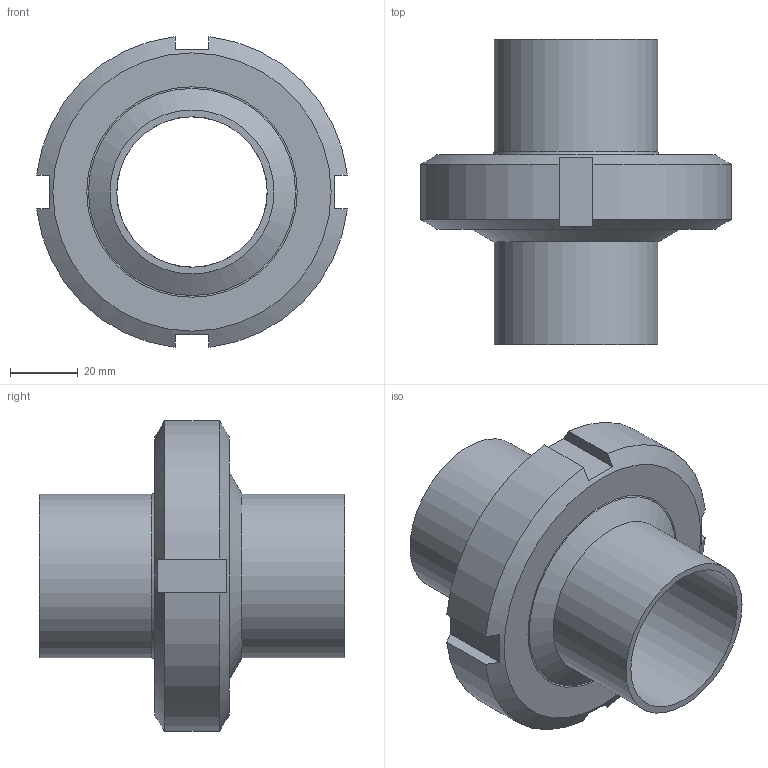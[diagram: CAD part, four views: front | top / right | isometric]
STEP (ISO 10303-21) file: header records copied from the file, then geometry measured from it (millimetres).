
FILE_DESCRIPTION(/* description */ ('Aseptik_Rohrverbindung_DIN 11864-1-A_48,3x2_L90'),/* implementation_level */ '2;1');
FILE_NAME(/* name */ 'L:\Normteile\N0024 - Rohrverbindungen\N0024_002 - DIN11864\N0024_002_001 - geschraubt\N0024_002_001\Step Marketing\DIN11864-1-A_48,3x2_L90.stp',/* time_stamp */ '2021-08-31T10:25:29+02:00',/* author */ ('Csasse'),/* organization */ ('Dockweiler AG'),/* preprocessor_version */ 'ST-DEVELOPER v18',/* originating_system */ 'Autodesk Inventor 2020',/* authorisation */ '');
FILE_SCHEMA (('AUTOMOTIVE_DESIGN { 1 0 10303 214 3 1 1 }'));
Length unit declared in the file: millimetre
Products named in the file (5): N0024_002_001_45; N0003_007_001_17; N0003_007_002_17; N0005_005_002_001_18; N0009_009_17
Assembly tree (4 placements, depth 2):
  N0024_002_001_45
    N0003_007_001_17
    N0003_007_002_17
    N0005_005_002_001_18
    N0009_009_17
Bounding box: 91.45 x 90 x 91.45 mm (x, y, z)
Volume: 127545 mm3; surface area: 60376.9 mm2
Topology: 4 solids, 4 shells, 60 faces, 176 edges, 128 vertices
Faces by surface type: plane 24, cylinder 14, torus 12, cone 10
Full cylindrical faces by diameter (mm): 44.3 x2, 48.3 x2, 61 x1, 62 x1, 66.9 x1, 67 x1, 73.767 x1, 78.423 x1
Entity records: 2344 total; most frequent: CARTESIAN_POINT 425, DIRECTION 402, ORIENTED_EDGE 352, AXIS2_PLACEMENT_3D 183, EDGE_CURVE 176, VERTEX_POINT 128, CIRCLE 114, EDGE_LOOP 72
